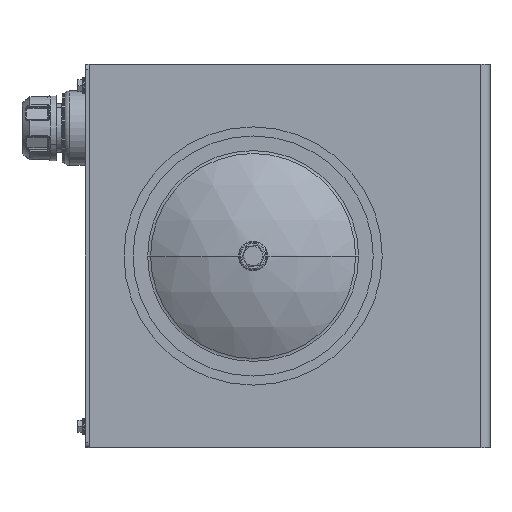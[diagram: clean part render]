
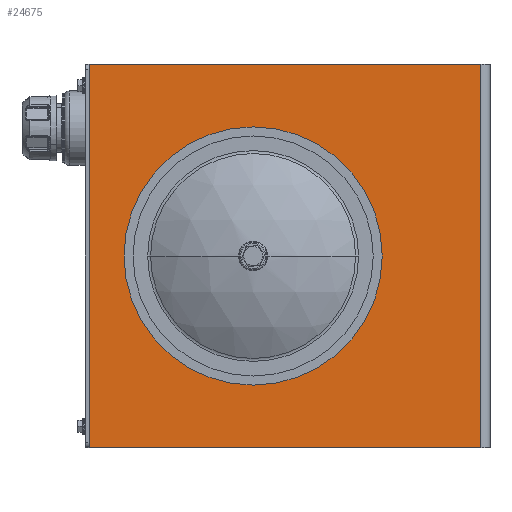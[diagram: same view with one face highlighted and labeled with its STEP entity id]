
A CAD part, left-side view. The second image highlights one B-rep face of the part: STEP entity #24675.
In plain terms, the highlighted planar face has unit normal (-1, 0, 0).
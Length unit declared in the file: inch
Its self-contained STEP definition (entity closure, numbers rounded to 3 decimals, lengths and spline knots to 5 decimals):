
#1000 = AXIS2_PLACEMENT_3D ( 'NONE', #8925, #15822, #2043 ) ;
#1060 = DIRECTION ( 'NONE',  ( 0., -1., 0. ) ) ;
#1173 = LINE ( 'NONE', #26309, #12717 ) ;
#1232 = FACE_BOUND ( 'NONE', #20001, .T. ) ;
#1831 = EDGE_CURVE ( 'NONE', #24339, #23229, #15801, .T. ) ;
#2043 = DIRECTION ( 'NONE',  ( 0., 0., -1. ) ) ;
#3413 = VERTEX_POINT ( 'NONE', #21277 ) ;
#3641 = CARTESIAN_POINT ( 'NONE',  ( -15.29857, 6.46452, -7.52323 ) ) ;
#3710 = CARTESIAN_POINT ( 'NONE',  ( -15.29857, -12.34798, 10.47677 ) ) ;
#5084 = AXIS2_PLACEMENT_3D ( 'NONE', #24448, #10681, #26725 ) ;
#5386 = CARTESIAN_POINT ( 'NONE',  ( -15.29857, -11.91868, -7.52323 ) ) ;
#5806 = CARTESIAN_POINT ( 'NONE',  ( -15.29857, -1.22548, 1.47677 ) ) ;
#6046 = CARTESIAN_POINT ( 'NONE',  ( -15.29857, 6.46452, -7.52323 ) ) ;
#7919 = CARTESIAN_POINT ( 'NONE',  ( -15.29857, -1.22548, 6.47677 ) ) ;
#8152 = DIRECTION ( 'NONE',  ( 0., 0., 1. ) ) ;
#8271 = VERTEX_POINT ( 'NONE', #3641 ) ;
#8873 = CARTESIAN_POINT ( 'NONE',  ( -15.29857, -11.91868, -7.52323 ) ) ;
#8925 = CARTESIAN_POINT ( 'NONE',  ( -15.29857, 6.46452, -7.52323 ) ) ;
#9080 = VERTEX_POINT ( 'NONE', #5386 ) ;
#9943 = ORIENTED_EDGE ( 'NONE', *, *, #1831, .F. ) ;
#10562 = DIRECTION ( 'NONE',  ( 0., 1., 0. ) ) ;
#10654 = DIRECTION ( 'NONE',  ( 0., 0., -1. ) ) ;
#10681 = DIRECTION ( 'NONE',  ( -1., 0., 0. ) ) ;
#11293 = LINE ( 'NONE', #8873, #12025 ) ;
#11344 = AXIS2_PLACEMENT_3D ( 'NONE', #5806, #21891, #8152 ) ;
#12025 = VECTOR ( 'NONE', #22604, 39.37008 ) ;
#12717 = VECTOR ( 'NONE', #1060, 39.37008 ) ;
#13213 = LINE ( 'NONE', #3710, #18576 ) ;
#13444 = LINE ( 'NONE', #6046, #25695 ) ;
#13494 = FACE_OUTER_BOUND ( 'NONE', #28699, .T. ) ;
#13877 = ORIENTED_EDGE ( 'NONE', *, *, #28858, .F. ) ;
#15801 = CIRCLE ( 'NONE', #5084, 5. ) ;
#15822 = DIRECTION ( 'NONE',  ( 1., 0., 0. ) ) ;
#16490 = CARTESIAN_POINT ( 'NONE',  ( -15.29857, -11.91868, 10.47677 ) ) ;
#18574 = EDGE_CURVE ( 'NONE', #18934, #3413, #13213, .T. ) ;
#18576 = VECTOR ( 'NONE', #10562, 39.37008 ) ;
#18934 = VERTEX_POINT ( 'NONE', #16490 ) ;
#20001 = EDGE_LOOP ( 'NONE', ( #13877, #9943 ) ) ;
#20973 = CIRCLE ( 'NONE', #11344, 5. ) ;
#21277 = CARTESIAN_POINT ( 'NONE',  ( -15.29857, 6.46452, 10.47677 ) ) ;
#21891 = DIRECTION ( 'NONE',  ( -1., 0., 0. ) ) ;
#22172 = ORIENTED_EDGE ( 'NONE', *, *, #28301, .T. ) ;
#22604 = DIRECTION ( 'NONE',  ( 0., 0., 1. ) ) ;
#22649 = PLANE ( 'NONE',  #1000 ) ;
#23229 = VERTEX_POINT ( 'NONE', #7919 ) ;
#24339 = VERTEX_POINT ( 'NONE', #26576 ) ;
#24448 = CARTESIAN_POINT ( 'NONE',  ( -15.29857, -1.22548, 1.47677 ) ) ;
#24675 = ADVANCED_FACE ( 'NONE', ( #1232, #13494 ), #22649, .F. ) ;
#25060 = ORIENTED_EDGE ( 'NONE', *, *, #28473, .T. ) ;
#25569 = EDGE_CURVE ( 'NONE', #8271, #9080, #1173, .T. ) ;
#25695 = VECTOR ( 'NONE', #10654, 39.37008 ) ;
#26309 = CARTESIAN_POINT ( 'NONE',  ( -15.29857, -12.34798, -7.52323 ) ) ;
#26576 = CARTESIAN_POINT ( 'NONE',  ( -15.29857, -1.22548, -3.52323 ) ) ;
#26725 = DIRECTION ( 'NONE',  ( 0., 0., 1. ) ) ;
#28056 = ORIENTED_EDGE ( 'NONE', *, *, #25569, .T. ) ;
#28301 = EDGE_CURVE ( 'NONE', #3413, #8271, #13444, .T. ) ;
#28473 = EDGE_CURVE ( 'NONE', #9080, #18934, #11293, .T. ) ;
#28699 = EDGE_LOOP ( 'NONE', ( #25060, #29233, #22172, #28056 ) ) ;
#28858 = EDGE_CURVE ( 'NONE', #23229, #24339, #20973, .T. ) ;
#29233 = ORIENTED_EDGE ( 'NONE', *, *, #18574, .T. ) ;
